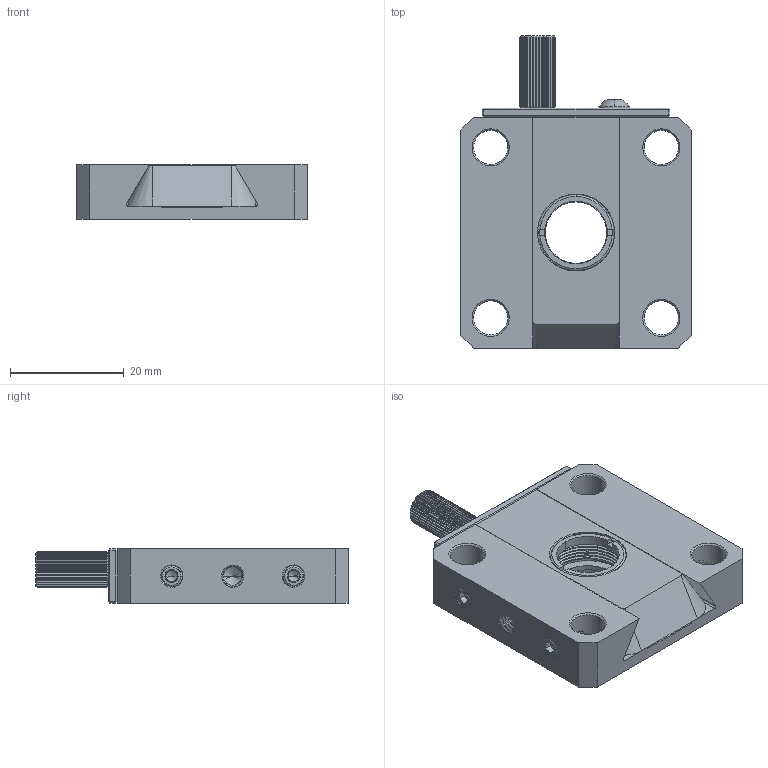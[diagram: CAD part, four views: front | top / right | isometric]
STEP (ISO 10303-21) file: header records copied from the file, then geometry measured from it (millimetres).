
FILE_DESCRIPTION((''),'2;1');
FILE_NAME('CFH30T-0001_ASM','2026-07-04T10:47:57',('R&D'),(''),'CREO PARAMETRIC BY PTC INC, 2021063','CREO PARAMETRIC BY PTC INC, 2021063','');
FILE_SCHEMA(('CONFIG_CONTROL_DESIGN'));
Products named in the file (14): CFH30T-0001-A2; CFH30T-0001-A3; CFH30T-0001-A4; CFH30T-0001-A5; CFH30T-0001-A6; CFH30T-0001-A7; CFH30T-0001-A8; CFH30T-0001-A9; CFH30T-0001-B1; CFH30T-0001-B2; CFH30T-0001-B3; CFH30T-0001-B4; CFH30T-0001-A1_ASM; CFH30T-0001_ASM
Assembly tree (13 placements, depth 3):
  CFH30T-0001_ASM
    CFH30T-0001-A1_ASM
      CFH30T-0001-A2
      CFH30T-0001-A3
      CFH30T-0001-A4
      CFH30T-0001-A5
      CFH30T-0001-A6
      CFH30T-0001-A7
      CFH30T-0001-A8
      CFH30T-0001-A9
      CFH30T-0001-B1
      CFH30T-0001-B2
      CFH30T-0001-B3
      CFH30T-0001-B4
Bounding box: 40.64 x 54.94 x 9.53 mm (x, y, z)
Volume: 13481.3 mm3; surface area: 11293.4 mm2
Topology: 12 solids, 12 shells, 913 faces, 2418 edges, 1513 vertices
Faces by surface type: cylinder 330, plane 228, bspline 201, cone 148, sphere 6
Entity records: 65656 total; most frequent: CARTESIAN_POINT 45421, ORIENTED_EDGE 4784, DIRECTION 3153, EDGE_CURVE 2392, VERTEX_POINT 1513, AXIS2_PLACEMENT_3D 1139, B_SPLINE_CURVE_WITH_KNOTS 1129, EDGE_LOOP 951
